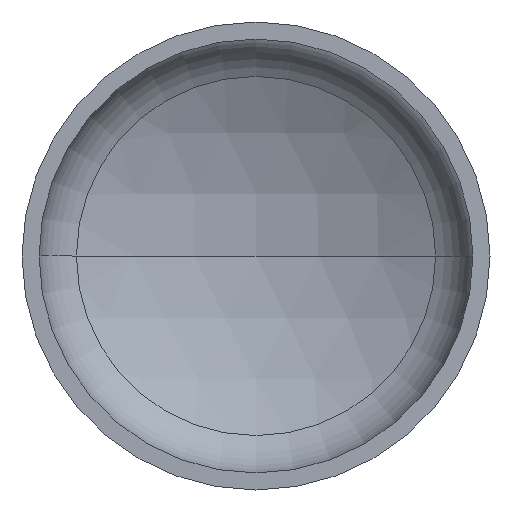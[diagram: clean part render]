
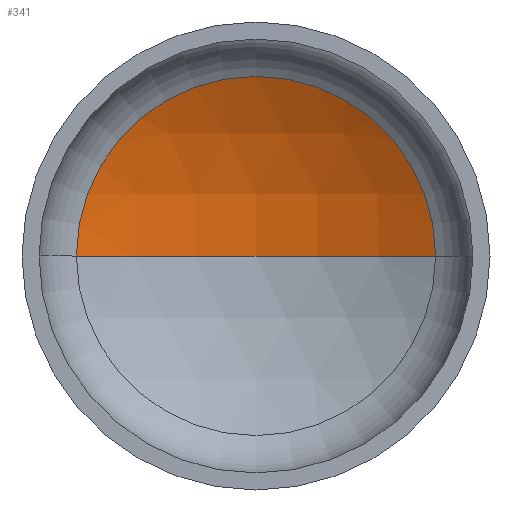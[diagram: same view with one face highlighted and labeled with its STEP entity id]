
A CAD part, front view. The second image highlights one B-rep face of the part: STEP entity #341.
In plain terms, the highlighted spherical face has radius 2240 mm.
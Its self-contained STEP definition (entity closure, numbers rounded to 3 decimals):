
#9 = VERTEX_POINT ( 'NONE', #118 ) ;
#16 = VERTEX_POINT ( 'NONE', #278 ) ;
#19 = DIRECTION ( 'NONE',  ( 0., 0., -1. ) ) ;
#22 = AXIS2_PLACEMENT_3D ( 'NONE', #396, #19, #398 ) ;
#37 = DIRECTION ( 'NONE',  ( 0., -1., 0. ) ) ;
#49 = AXIS2_PLACEMENT_3D ( 'NONE', #200, #354, #223 ) ;
#52 = AXIS2_PLACEMENT_3D ( 'NONE', #299, #124, #349 ) ;
#54 = AXIS2_PLACEMENT_3D ( 'NONE', #263, #37, #287 ) ;
#60 = VERTEX_POINT ( 'NONE', #298 ) ;
#92 = EDGE_LOOP ( 'NONE', ( #146, #126, #98 ) ) ;
#98 = ORIENTED_EDGE ( 'NONE', *, *, #134, .T. ) ;
#118 = CARTESIAN_POINT ( 'NONE',  ( 0., 726.707, 0. ) ) ;
#124 = DIRECTION ( 'NONE',  ( 0., 0., 1. ) ) ;
#126 = ORIENTED_EDGE ( 'NONE', *, *, #169, .T. ) ;
#134 = EDGE_CURVE ( 'NONE', #16, #60, #368, .T. ) ;
#146 = ORIENTED_EDGE ( 'NONE', *, *, #183, .F. ) ;
#161 = SPHERICAL_SURFACE ( 'NONE', #22, 2240. ) ;
#169 = EDGE_CURVE ( 'NONE', #9, #16, #302, .T. ) ;
#183 = EDGE_CURVE ( 'NONE', #9, #60, #248, .T. ) ;
#200 = CARTESIAN_POINT ( 'NONE',  ( 0., -1513.293, 0. ) ) ;
#223 = DIRECTION ( 'NONE',  ( -1., 0., 0. ) ) ;
#248 = CIRCLE ( 'NONE', #52, 2240. ) ;
#263 = CARTESIAN_POINT ( 'NONE',  ( 0., 452.329, 0. ) ) ;
#278 = CARTESIAN_POINT ( 'NONE',  ( 1074.21, 452.329, 0. ) ) ;
#280 = FACE_OUTER_BOUND ( 'NONE', #92, .T. ) ;
#287 = DIRECTION ( 'NONE',  ( 1., 0., 0. ) ) ;
#298 = CARTESIAN_POINT ( 'NONE',  ( -1074.21, 452.329, 0. ) ) ;
#299 = CARTESIAN_POINT ( 'NONE',  ( 0., -1513.293, 0. ) ) ;
#302 = CIRCLE ( 'NONE', #49, 2240. ) ;
#341 = ADVANCED_FACE ( 'NONE', ( #280 ), #161, .F. ) ;
#349 = DIRECTION ( 'NONE',  ( 1., 0., 0. ) ) ;
#354 = DIRECTION ( 'NONE',  ( 0., 0., -1. ) ) ;
#368 = CIRCLE ( 'NONE', #54, 1074.21 ) ;
#396 = CARTESIAN_POINT ( 'NONE',  ( 0., -1513.293, 0. ) ) ;
#398 = DIRECTION ( 'NONE',  ( -1., 0., 0. ) ) ;
